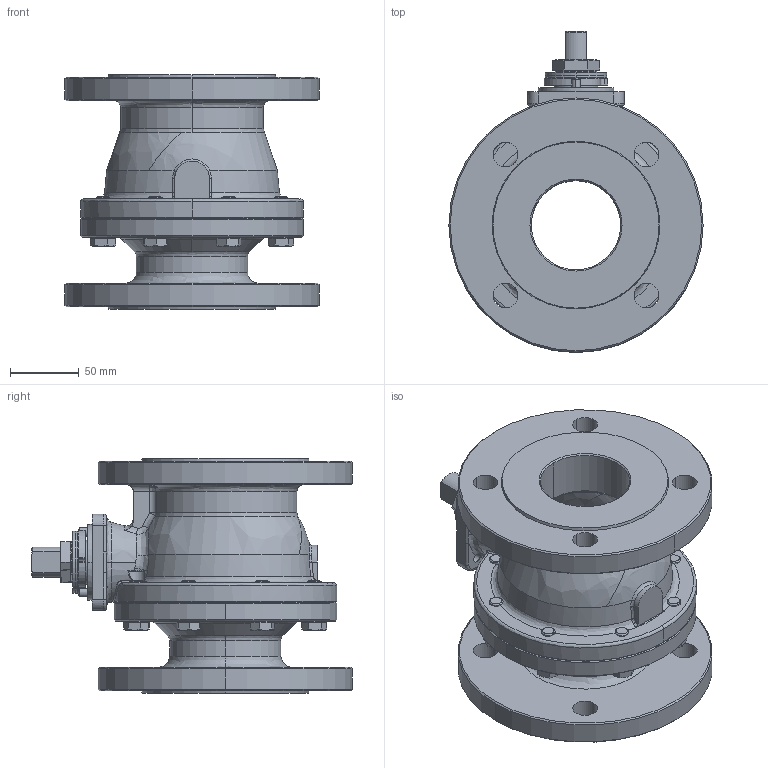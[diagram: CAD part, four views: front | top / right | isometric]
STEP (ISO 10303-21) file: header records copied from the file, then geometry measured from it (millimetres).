
FILE_DESCRIPTION (( 'STEP AP214' ), '1' );
FILE_NAME ('FIG 516 - DN65 eje libre.STEP', '2016-10-03T17:37:19', ( '' ), ( '' ), 'SwSTEP 2.0', 'SolidWorks 2016', '' );
FILE_SCHEMA (( 'AUTOMOTIVE_DESIGN' ));
Length unit declared in the file: millimetre
Products named in the file (13): ISO 4017 - M10 x 30-N_ISO 4017 - M10 x 30-N; 0516065L; 5165-07; 5165-10-1; JT65FV (32x22x2); DIN 6325 - Ø6x18; P65G (32x22x5)_Comprimida; EPI65Q; 00650930; 0516065C; DIN 2093 - B45; 5265_46; FIG 516 - DN65 eje libre
Assembly tree (22 placements, depth 2):
  FIG 516 - DN65 eje libre
    0516065C
    0516065L
    EPI65Q
    P65G (32x22x5)_Comprimida  x2
    5165-10-1
    JT65FV (32x22x2)
    DIN 2093 - B45  x2
    ISO 4017 - M10 x 30-N_ISO 4017 - M10 x 30-N  x8
    5265_46
    5165-07
    00650930
    DIN 6325 - Ø6x18  x2
Bounding box: 185 x 233.5 x 171 mm (x, y, z)
Volume: 1663360.8 mm3; surface area: 318447.3 mm2
Topology: 22 solids, 22 shells, 753 faces, 1806 edges, 1090 vertices
Faces by surface type: cylinder 226, plane 218, cone 173, bspline 102, torus 24, sphere 10
Entity records: 32889 total; most frequent: CARTESIAN_POINT 20300, ORIENTED_EDGE 2640, DIRECTION 2270, EDGE_CURVE 1320, AXIS2_PLACEMENT_3D 938, VERTEX_POINT 828, EDGE_LOOP 616, ADVANCED_FACE 528
